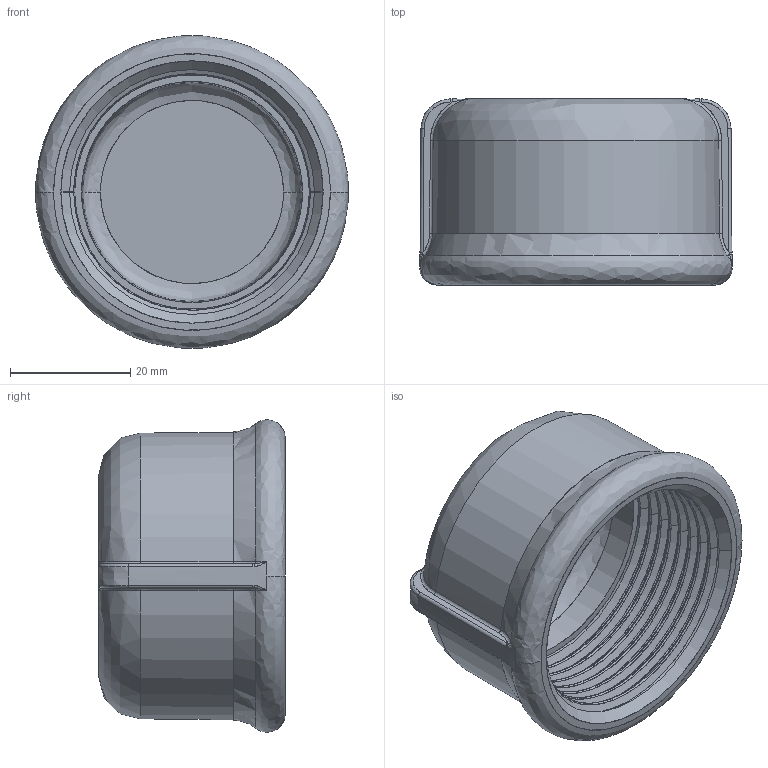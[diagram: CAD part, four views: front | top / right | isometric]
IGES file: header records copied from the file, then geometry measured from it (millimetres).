
Start section: SolidWorks IGES file using analytic representation for surfaces
Global section: file name: C:\Users\Joel Rosa\Desktop\Tubulação\12-42-XXX\12-42-008.IGS; native system: SolidWorks 2011; preprocessor: SolidWorks 2011; author: Joel Rosa; date: 131001.205831; units: millimetre
Bounding box: 52 x 31 x 52 mm (x, y, z)
Surface area: 12832.3 mm2 (no closed solid volume)
Topology: 0 solids, 0 shells, 249 faces, 2235 edges, 2235 vertices
Faces by surface type: bspline 201, revolution 48
